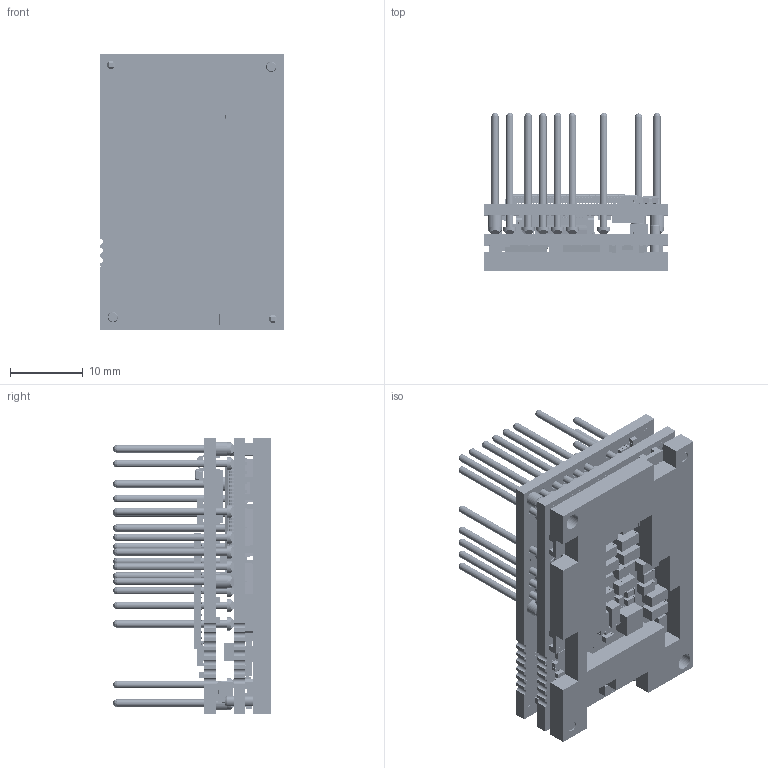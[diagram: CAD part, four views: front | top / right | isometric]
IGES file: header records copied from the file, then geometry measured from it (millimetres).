
Start section: SolidWorks IGES file using analytic representation for surfaces
Global section: file name: G:\MCAD\TOP_ASSEMBLIES\FlexPro\FE060-25-CMA1.IGS; native system: SolidWorks 2010; preprocessor: SolidWorks 2010; author: rfoss; date: 201118.165026; units: inch
Bounding box: 25.4 x 21.76 x 38.1 mm (x, y, z)
Surface area: 11291.8 mm2 (no closed solid volume)
Topology: 0 solids, 0 shells, 18517 faces, 120846 edges, 119831 vertices
Faces by surface type: bspline 15575, revolution 2942
